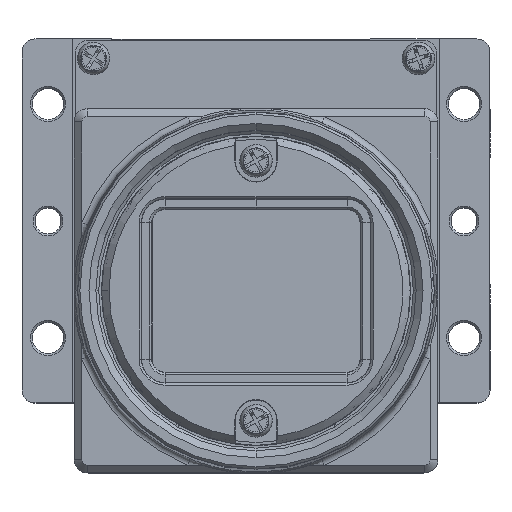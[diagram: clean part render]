
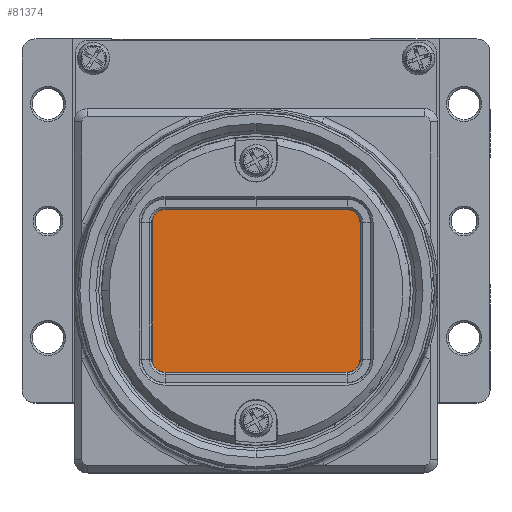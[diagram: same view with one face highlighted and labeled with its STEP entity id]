
A CAD part, top view. The second image highlights one B-rep face of the part: STEP entity #81374.
In plain terms, the highlighted planar face has unit normal (0, 0, 1).
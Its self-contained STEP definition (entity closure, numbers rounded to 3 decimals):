
#17 = CARTESIAN_POINT ( 'NONE',  ( -9., -12.904, 157.955 ) ) ;
#3144 = DIRECTION ( 'NONE',  ( -1., 0., 0. ) ) ;
#4469 = VERTEX_POINT ( 'NONE', #182075 ) ;
#4502 = CARTESIAN_POINT ( 'NONE',  ( 0., -5.654, 157.955 ) ) ;
#22572 = VECTOR ( 'NONE', #170275, 1000. ) ;
#24541 = ORIENTED_EDGE ( 'NONE', *, *, #35572, .T. ) ;
#24868 = LINE ( 'NONE', #152234, #252070 ) ;
#25255 = FACE_OUTER_BOUND ( 'NONE', #27028, .T. ) ;
#27028 = EDGE_LOOP ( 'NONE', ( #90817, #24541, #263848, #140625 ) ) ;
#35572 = EDGE_CURVE ( 'NONE', #187956, #253084, #24868, .T. ) ;
#40105 = VECTOR ( 'NONE', #158080, 1000. ) ;
#76718 = CARTESIAN_POINT ( 'NONE',  ( -9., 1.596, 157.955 ) ) ;
#81374 = ADVANCED_FACE ( 'NONE', ( #25255 ), #192782, .F. ) ;
#85824 = LINE ( 'NONE', #17, #22572 ) ;
#88926 = DIRECTION ( 'NONE',  ( 0., 0., -1. ) ) ;
#90817 = ORIENTED_EDGE ( 'NONE', *, *, #126842, .T. ) ;
#91271 = DIRECTION ( 'NONE',  ( -1., 0., 0. ) ) ;
#111122 = CARTESIAN_POINT ( 'NONE',  ( 9., 1.596, 157.955 ) ) ;
#126842 = EDGE_CURVE ( 'NONE', #182008, #187956, #270516, .T. ) ;
#131760 = AXIS2_PLACEMENT_3D ( 'NONE', #4502, #88926, #3144 ) ;
#137291 = LINE ( 'NONE', #199577, #40105 ) ;
#140625 = ORIENTED_EDGE ( 'NONE', *, *, #185258, .T. ) ;
#152010 = VECTOR ( 'NONE', #187466, 1000. ) ;
#152234 = CARTESIAN_POINT ( 'NONE',  ( -9., 1.596, 157.955 ) ) ;
#158080 = DIRECTION ( 'NONE',  ( 0., -1., 0. ) ) ;
#166720 = CARTESIAN_POINT ( 'NONE',  ( 9., -12.904, 157.955 ) ) ;
#170275 = DIRECTION ( 'NONE',  ( 1., 0., 0. ) ) ;
#182008 = VERTEX_POINT ( 'NONE', #260002 ) ;
#182075 = CARTESIAN_POINT ( 'NONE',  ( -9., -12.904, 157.955 ) ) ;
#185258 = EDGE_CURVE ( 'NONE', #4469, #182008, #85824, .T. ) ;
#187466 = DIRECTION ( 'NONE',  ( 0., 1., 0. ) ) ;
#187956 = VERTEX_POINT ( 'NONE', #111122 ) ;
#192782 = PLANE ( 'NONE',  #131760 ) ;
#199577 = CARTESIAN_POINT ( 'NONE',  ( -9., -12.904, 157.955 ) ) ;
#252070 = VECTOR ( 'NONE', #91271, 1000. ) ;
#253084 = VERTEX_POINT ( 'NONE', #76718 ) ;
#260002 = CARTESIAN_POINT ( 'NONE',  ( 9., -12.904, 157.955 ) ) ;
#262952 = EDGE_CURVE ( 'NONE', #253084, #4469, #137291, .T. ) ;
#263848 = ORIENTED_EDGE ( 'NONE', *, *, #262952, .T. ) ;
#270516 = LINE ( 'NONE', #166720, #152010 ) ;
